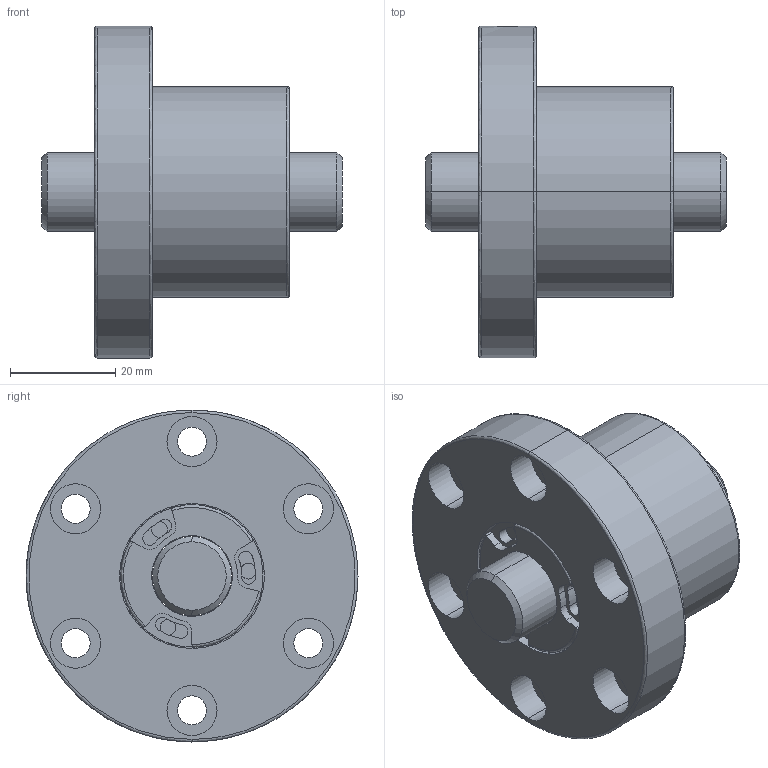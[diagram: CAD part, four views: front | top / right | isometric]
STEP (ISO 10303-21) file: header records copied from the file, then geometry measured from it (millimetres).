
FILE_DESCRIPTION (( 'STEP AP203' ), '1' );
FILE_NAME ('SFVSR01505C1N-C.STEP', '2020-06-17T03:58:49', ( '' ), ( '' ), 'SwSTEP 2.0', 'SolidWorks 2013', '' );
FILE_SCHEMA (( 'CONFIG_CONTROL_DESIGN' ));
Length unit declared in the file: millimetre
Products named in the file (1): SFVSR01505C1N-C
Bounding box: 57 x 63 x 63 mm (x, y, z)
Volume: 64687.8 mm3; surface area: 19721.8 mm2
Topology: 2 solids, 2 shells, 252 faces, 620 edges, 398 vertices
Faces by surface type: cylinder 146, plane 76, cone 16, bspline 14
Entity records: 8233 total; most frequent: CARTESIAN_POINT 1951, DIRECTION 1432, ORIENTED_EDGE 1240, EDGE_CURVE 620, AXIS2_PLACEMENT_3D 611, VERTEX_POINT 398, CIRCLE 372, EDGE_LOOP 296
